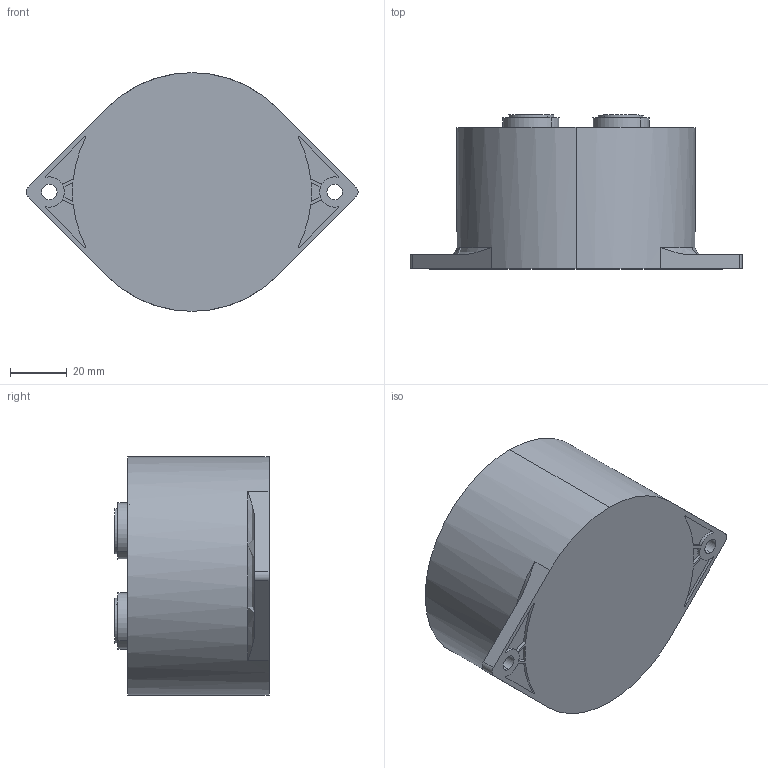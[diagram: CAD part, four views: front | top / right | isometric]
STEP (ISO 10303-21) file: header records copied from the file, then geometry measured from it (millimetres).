
FILE_DESCRIPTION (( 'STEP AP203' ), '1' );
FILE_NAME ('B25632E_50X54.STEP', '2021-11-02T05:30:51', ( '' ), ( '' ), 'SwSTEP 2.0', 'SolidWorks 2017', '' );
FILE_SCHEMA (( 'CONFIG_CONTROL_DESIGN' ));
Length unit declared in the file: millimetre
Products named in the file (1): B25632E_50X54
Bounding box: 117.48 x 54.5 x 84.5 mm (x, y, z)
Volume: 50373.8 mm3; surface area: 50967 mm2
Topology: 1 solids, 4 shells, 223 faces, 561 edges, 364 vertices
Faces by surface type: cylinder 105, plane 100, cone 16, torus 2
Entity records: 6802 total; most frequent: DIRECTION 1221, CARTESIAN_POINT 1173, ORIENTED_EDGE 1114, EDGE_CURVE 557, AXIS2_PLACEMENT_3D 444, VERTEX_POINT 364, VECTOR 333, LINE 333
